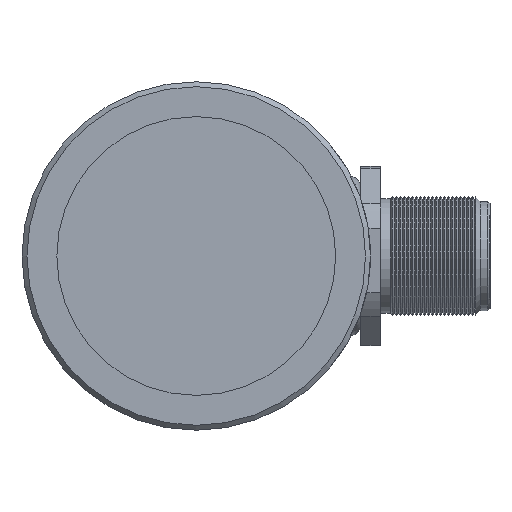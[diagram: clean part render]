
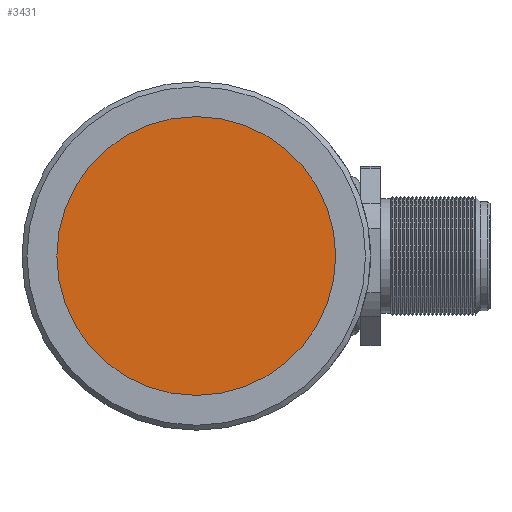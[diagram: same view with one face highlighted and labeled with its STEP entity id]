
A CAD part, left-side view. The second image highlights one B-rep face of the part: STEP entity #3431.
In plain terms, the highlighted planar face has unit normal (-1, 0, 0).
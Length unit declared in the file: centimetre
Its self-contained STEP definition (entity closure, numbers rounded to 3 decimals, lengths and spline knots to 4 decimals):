
#617=PLANE('',#3702);
#754=CIRCLE('',#3701,1.4);
#920=VERTEX_POINT('',#4879);
#1309=EDGE_CURVE('',#920,#920,#754,.T.);
#1776=ORIENTED_EDGE('',*,*,#1309,.T.);
#2690=EDGE_LOOP('',(#1776));
#3067=FACE_BOUND('',#2690,.T.);
#3431=ADVANCED_FACE('',(#3067),#617,.F.);
#3701=AXIS2_PLACEMENT_3D('',#4878,#4067,#4068);
#3702=AXIS2_PLACEMENT_3D('',#4880,#4069,$);
#4067=DIRECTION('',(-1.,0.,0.));
#4068=DIRECTION('',(0.,0.,-1.4));
#4069=DIRECTION('',(1.,0.,0.));
#4878=CARTESIAN_POINT('',(-4.9,0.,0.));
#4879=CARTESIAN_POINT('',(-4.9,0.,-1.4));
#4880=CARTESIAN_POINT('',(-4.9,0.,0.));
